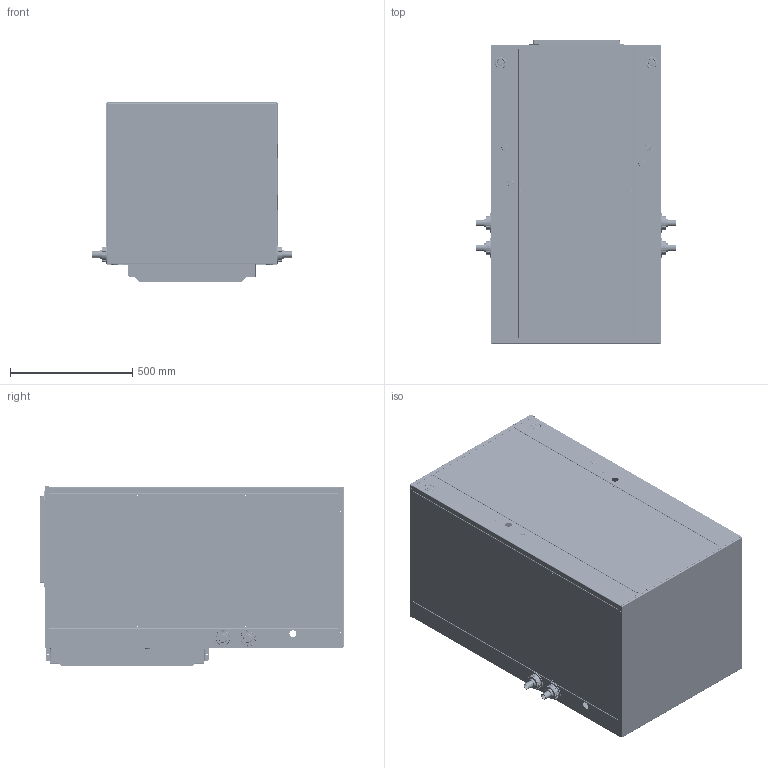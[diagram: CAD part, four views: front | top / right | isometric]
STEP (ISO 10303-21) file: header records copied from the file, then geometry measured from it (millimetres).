
FILE_DESCRIPTION (( 'STEP AP214' ), '1' );
FILE_NAME ('GV38S2.STEP', '2016-07-14T13:51:25', ( 'BMC' ), ( 'Bard Manufacturing Co., Inc.' ), 'SwSTEP 2.0', 'SolidWorks 2016', '' );
FILE_SCHEMA (( 'AUTOMOTIVE_DESIGN' ));
Length unit declared in the file: inch
Products named in the file (27): 108-209; Cap; Plug; GV38S2; Retaining Nut; copper adapter; water fitting; plastic trim; 144-177; 140-262; 126-296; 140-263; 104-1035; 152-466; 152-463; 100-358; 130-157; 106-217; 130-156_BENT FLANGES; 122-118; 6011-015, 1 in F to F elbow; 120-433; 152-462; 148-109; 136-565; 148-108; Fitting assembly
Assembly tree (32 placements, depth 3):
  GV38S2
    108-209
    148-108
    148-109
    120-433
    122-118
    106-217
    100-358
    152-463
    152-466
    104-1035
    140-263  x2
    126-296
    140-262  x2
    144-177  x2
    Fitting assembly  x4
      plastic trim
      water fitting
      copper adapter
      Retaining Nut
      Plug
      Cap
    136-565
    152-462
    6011-015, 1 in F to F elbow
    130-156_BENT FLANGES
    130-157
Bounding box: 817.88 x 1243.81 x 733.87 mm (x, y, z)
Volume: 229949 mm3; surface area: 10594834.3 mm2
Topology: 2 solids, 46 shells, 4035 faces, 10349 edges, 6444 vertices
Faces by surface type: cylinder 1350, plane 1299, bspline 1204, cone 182
Entity records: 115868 total; most frequent: CARTESIAN_POINT 42510, ORIENTED_EDGE 14500, DIRECTION 12915, EDGE_CURVE 7250, AXIS2_PLACEMENT_3D 4733, VERTEX_POINT 4553, LINE 3449, VECTOR 3449
